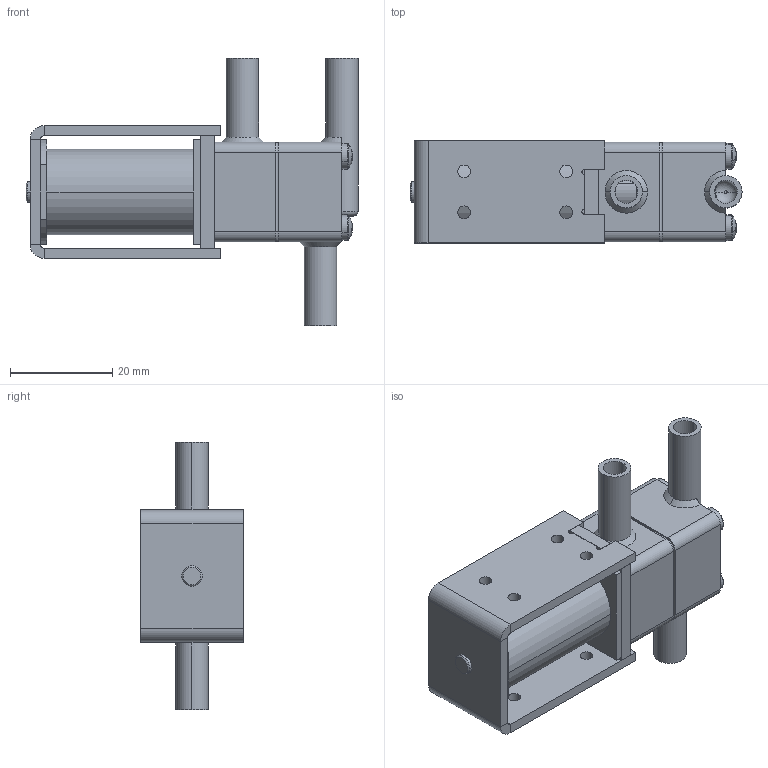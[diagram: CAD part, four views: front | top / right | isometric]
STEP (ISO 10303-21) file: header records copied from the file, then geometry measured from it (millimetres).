
FILE_DESCRIPTION (( 'STEP AP214' ), '1' );
FILE_NAME ('TCS_Precision_JSF2637003_WaterValve_Assy.STEP', '2023-07-06T12:54:09', ( '' ), ( '' ), 'SwSTEP 2.0', 'SolidWorks 2022', '' );
FILE_SCHEMA (( 'AUTOMOTIVE_DESIGN' ));
Length unit declared in the file: millimetre
Products named in the file (8): pan head cross recess screw_din_DIN EN ISO 7045 - M2.5 x 25 - Z - 25S; TCS_Precision_JSF2637003_WaterValve_Solenoid; 1196N47_Ultra-Chemical-Resistant Rigid PTFE O-Ring_1196N47; TCS_Precision_JSF2637003_WaterValve_Assy; TCS_Precision_JSF2637003_WaterValve_PinSeal; TCS_Precision_JSF2637003_WaterValve_Single Port Housing; TCS_Precision_JSF2637003_WaterValve_Double Port Housing; TCS_Precision_JSF2637003_WaterValve_Pin
Assembly tree (11 placements, depth 2):
  TCS_Precision_JSF2637003_WaterValve_Assy
    TCS_Precision_JSF2637003_WaterValve_Solenoid
    TCS_Precision_JSF2637003_WaterValve_Pin
    TCS_Precision_JSF2637003_WaterValve_PinSeal
    TCS_Precision_JSF2637003_WaterValve_Single Port Housing
    TCS_Precision_JSF2637003_WaterValve_Double Port Housing
    pan head cross recess screw_din_DIN EN ISO 7045 - M2.5 x 25 - Z - 25S  x4
    1196N47_Ultra-Chemical-Resistant Rigid PTFE O-Ring_1196N47  x2
Bounding box: 65.08 x 20 x 52.4 mm (x, y, z)
Volume: 18655.3 mm3; surface area: 22009.6 mm2
Topology: 14 solids, 14 shells, 1891 faces, 4891 edges, 3016 vertices
Faces by surface type: cone 924, cylinder 649, plane 209, torus 63, bspline 30, sphere 16
Entity records: 26094 total; most frequent: CARTESIAN_POINT 6236, DIRECTION 4462, ORIENTED_EDGE 3878, EDGE_CURVE 1939, AXIS2_PLACEMENT_3D 1854, VERTEX_POINT 1200, CIRCLE 1090, EDGE_LOOP 857
